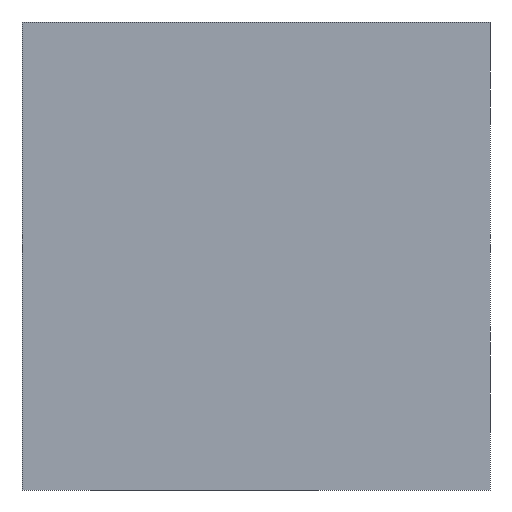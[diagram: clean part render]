
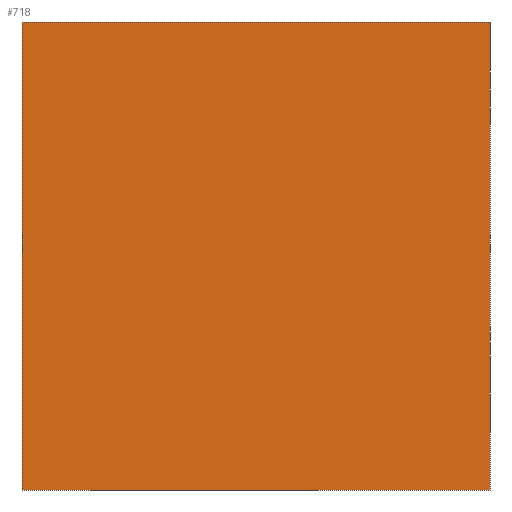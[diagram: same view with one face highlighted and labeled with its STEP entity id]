
A CAD part, front view. The second image highlights one B-rep face of the part: STEP entity #718.
In plain terms, the highlighted planar face has unit normal (0, -1, 0).
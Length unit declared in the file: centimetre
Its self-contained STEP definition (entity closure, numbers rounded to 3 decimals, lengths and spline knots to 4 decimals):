
#67 = ORIENTED_EDGE ( 'NONE', *, *, #329, .F. ) ;
#80 = VERTEX_POINT ( 'NONE', #742 ) ;
#81 = LINE ( 'NONE', #608, #231 ) ;
#122 = DIRECTION ( 'NONE',  ( 1., 0., 0. ) ) ;
#231 = VECTOR ( 'NONE', #468, 100. ) ;
#247 = CARTESIAN_POINT ( 'NONE',  ( 0., 0., 1000. ) ) ;
#272 = CARTESIAN_POINT ( 'NONE',  ( 1000., 0., 1000. ) ) ;
#279 = DIRECTION ( 'NONE',  ( 0., 0., -1. ) ) ;
#314 = DIRECTION ( 'NONE',  ( 0., 0., 1. ) ) ;
#329 = EDGE_CURVE ( 'NONE', #900, #928, #491, .T. ) ;
#411 = VECTOR ( 'NONE', #122, 100. ) ;
#468 = DIRECTION ( 'NONE',  ( 0., 0., -1. ) ) ;
#479 = EDGE_CURVE ( 'NONE', #641, #928, #865, .T. ) ;
#484 = EDGE_CURVE ( 'NONE', #80, #900, #685, .T. ) ;
#491 = LINE ( 'NONE', #565, #708 ) ;
#533 = CARTESIAN_POINT ( 'NONE',  ( 0., 0., 0. ) ) ;
#539 = DIRECTION ( 'NONE',  ( 1., 0., 0. ) ) ;
#543 = ORIENTED_EDGE ( 'NONE', *, *, #623, .T. ) ;
#547 = DIRECTION ( 'NONE',  ( 0., 1., 0. ) ) ;
#560 = CARTESIAN_POINT ( 'NONE',  ( 1000., 0., 0. ) ) ;
#565 = CARTESIAN_POINT ( 'NONE',  ( 1000., 0., 1000. ) ) ;
#608 = CARTESIAN_POINT ( 'NONE',  ( 0., 0., 1000. ) ) ;
#612 = CARTESIAN_POINT ( 'NONE',  ( 0., 0., 1000. ) ) ;
#623 = EDGE_CURVE ( 'NONE', #80, #641, #81, .T. ) ;
#641 = VERTEX_POINT ( 'NONE', #533 ) ;
#685 = LINE ( 'NONE', #612, #728 ) ;
#687 = ORIENTED_EDGE ( 'NONE', *, *, #479, .T. ) ;
#708 = VECTOR ( 'NONE', #279, 100. ) ;
#710 = AXIS2_PLACEMENT_3D ( 'NONE', #247, #547, #314 ) ;
#714 = CARTESIAN_POINT ( 'NONE',  ( 0., 0., 0. ) ) ;
#718 = ADVANCED_FACE ( 'NONE', ( #848 ), #919, .F. ) ;
#728 = VECTOR ( 'NONE', #539, 100. ) ;
#742 = CARTESIAN_POINT ( 'NONE',  ( 0., 0., 1000. ) ) ;
#788 = EDGE_LOOP ( 'NONE', ( #687, #67, #922, #543 ) ) ;
#848 = FACE_OUTER_BOUND ( 'NONE', #788, .T. ) ;
#865 = LINE ( 'NONE', #714, #411 ) ;
#900 = VERTEX_POINT ( 'NONE', #272 ) ;
#919 = PLANE ( 'NONE',  #710 ) ;
#922 = ORIENTED_EDGE ( 'NONE', *, *, #484, .F. ) ;
#928 = VERTEX_POINT ( 'NONE', #560 ) ;
